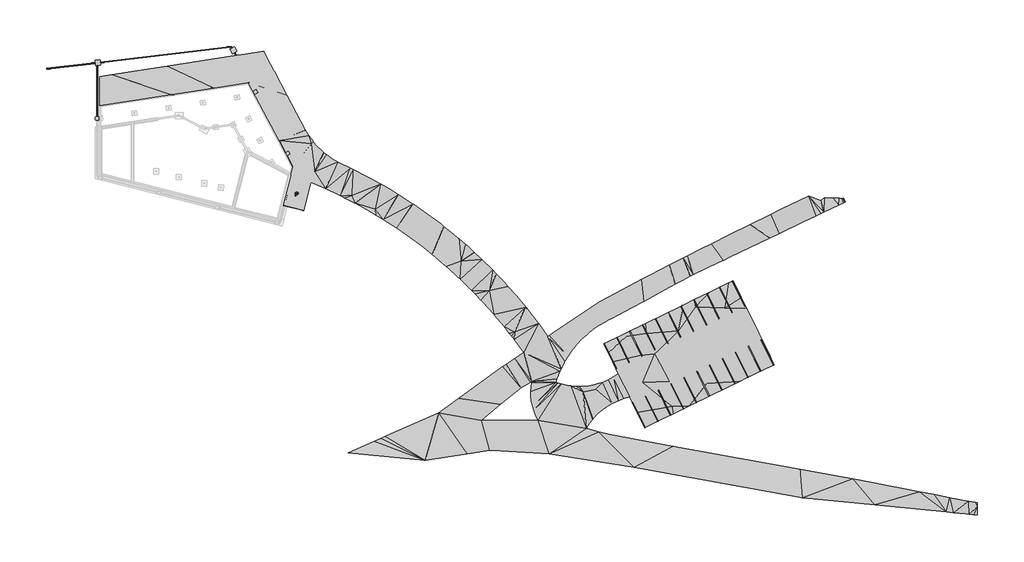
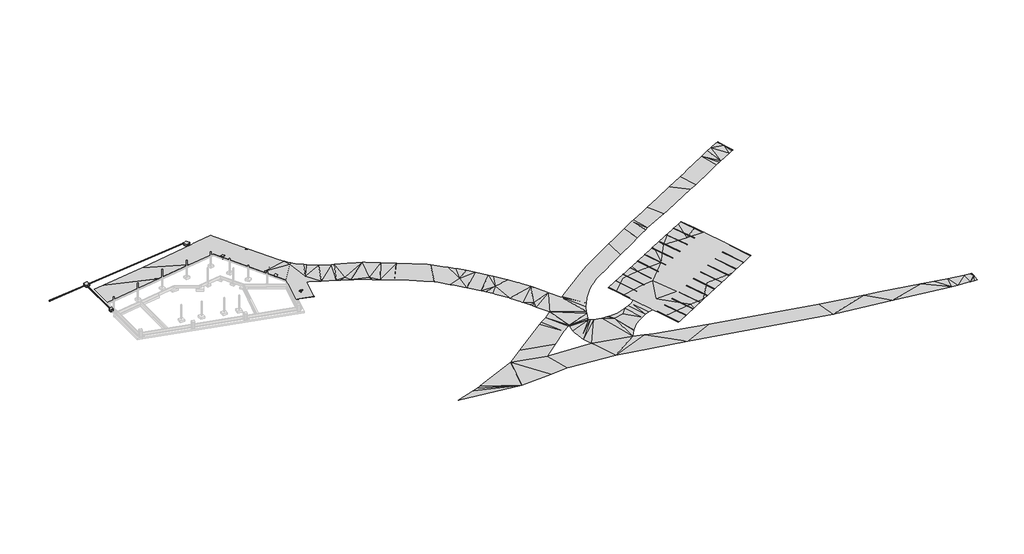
# One storey, part 2 of 2: 24 proxies, 6 pipe segments, 5 valves, 2 duct fittings.
"""IFC4 building model written with IfcOpenShell, lengths in millimetres."""

from ifc_helpers import new_model, si_unit, point, frame, frame_2d, origin, place, context, project, spatial, circle_curve, trimmed, segment, composite_curve, outline, extrude, triangles, transform, mapped, element, save
from components import parking_4ee11a6e, place_de_parking_2b7ae786, place_de_parking_cf846cf7, coude_45_coude_45_5ee33517, coude_45_coude_45_9e966648, regard_ep_600x600_5cba4647, regard_ep_900x900_4cb097e6

model = new_model("IFC4")

# Units and contexts
model_context = context("Model", 3, world=origin())
ifc_project = project(units=[si_unit("LENGTHUNIT", "METRE", prefix="MILLI")], contexts=[model_context])

# Site, building, storey
site = spatial("IfcSite", under=ifc_project)
building = spatial("IfcBuilding", under=site)
storey = spatial("IfcBuildingStorey", under=building, Name="-1 Soubassement", Elevation=869500.0)

# Proxies
placement = place(None, origin())
element("IfcBuildingElementProxy", 1, Name="Building Element Proxy", at=placement, inside=storey, context=model_context, shape_type="Tessellation", body=[
    triangles([(151670.4817383, -50631.3699829, 865261.7900391), (148473.0024902, -50048.2241821, 865284.6351562), (139487.3835205, -48409.4451416, 865346.5476563), (117659.7298096, -44428.5625488, 865835.8201172), (106768.1248535, -42442.172168, 866270.6214844), (104990.0938477, -41969.8661133, 866343.1007813), (102774.4616455, -41381.3206421, 866460.675), (103348.9940186, -40496.3979126, 866484.9339844), (103890.9981445, -39811.4304199, 866499.8912109), (103936.4744385, -39753.9595093, 866502.1236328), (103990.5734619, -39685.5915894, 866504.8025391), (104003.6796387, -39669.0205078, 866506.0675781), (104087.6373047, -39581.2119141, 866512.5416016), (104192.3006836, -39471.7395264, 866521.2480469), (104732.8072266, -38906.4228699, 866568.6498047), (105529.9771729, -38215.2743591, 866624.3859375), (106388.2317627, -37601.6187927, 866671.4900391), (107300.0644775, -37070.8256104, 866709.515625), (107846.0311523, -36818.04104, 866725.8123047), (108257.4944092, -36627.5363892, 866738.9835938), (109252.1406738, -36275.6276367, 866759.8939453), (110275.3247314, -36018.1782349, 866770.9072266), (111141.0486328, -37793.1884949, 866578.9933594), (111537.6476807, -38606.3295593, 866489.9941406), (112148.8382813, -39859.4507446, 866302.3962891), (112833.2337158, -41262.6720703, 866092.3253906), (113419.3839844, -40976.7871948, 866118.8912109), (115849.886792, -39791.3479248, 866229.2472656), (117691.6720459, -38893.051593, 866316.9070313), (120477.1857422, -37534.4670776, 866489.9941406), (124281.5023682, -35678.978009, 866718.8173828), (129109.5239502, -33324.1938354, 866989.9822266), (130426.6249512, -32681.8004883, 867058.6664062), (131126.7496582, -32340.3259827, 867097.1384766), (133607.0819824, -31130.5881958, 867233.390625), (134979.9470215, -30460.9941833, 867307.6558594), (134798.7394775, -30089.4610474, 867356.3226562), (134289.8961182, -29046.180542, 867489.9703125), (132407.4435791, -25186.5742676, 867972.9919922), (132342.0987305, -25052.5987244, 867990.0328125), (132321.0674561, -25009.480426, 867995.390625), (130271.2948975, -20806.8136963, 868490.0208984), (129362.5689697, -18943.6483521, 868672.5585938), (127966.0123535, -16080.2905701, 868864.1003906), (127153.0759277, -16476.7838104, 868820.49375), (123875.00625, -18075.6071503, 868687.3669922), (121329.7290527, -19317.0232361, 868637.6583984), (119358.9935303, -20278.2134033, 868550.8916016), (119214.7790771, -20348.5509705, 868545.6826172), (119026.0929199, -20440.5802368, 868534.2228516), (113037.3514893, -23361.4833435, 868206.5777344), (109830.049585, -24925.792511, 868070.4), (109282.3899902, -25192.9017883, 868047.0339844), (105819.2897461, -26881.9661316, 867909.665625), (106593.5866699, -28469.5087646, 867708.5988281), (107323.0026123, -29965.0198059, 867489.9703125), (108328.5784424, -32026.7707031, 867248.4966797), (108248.629834, -32079.6628235, 867244.9248047), (107473.5794678, -32592.3664124, 867195.5138672), (106571.113623, -33078.6669617, 867151.6095703), (105628.5292969, -33481.7214294, 867118.7929688), (104653.4725342, -33798.2532715, 867097.2128906), (104416.659082, -33852.1337036, 867094.8316406), (103653.8684326, -34025.6905518, 867092.896875), (102701.3591309, -34153.6525085, 867101.4544922), (102637.8467285, -34162.1868713, 867101.23125), (101712.9636475, -34202.3193054, 867108.6726563), (101613.6673828, -34206.6283447, 867111.946875), (101183.1169189, -34186.4598083, 867130.1783203), (100589.6368652, -34158.6591797, 867132.2619141), (100141.4223633, -34096.8722534, 867140.0009766), (99574.0895508, -34018.6677246, 867164.4832031), (98575.2854004, -33787.7887939, 867214.7126953), (97957.7975098, -33584.9825684, 867250.4314453), (97601.3169434, -33467.9013428, 867270.7464844), (97604.9260254, -33457.4391907, 867271.6394531), (97783.5755859, -32938.7592224, 867305.4234375), (98006.6317383, -32291.1289856, 867403.2779297), (98281.7312256, -31644.3684631, 867501.28125), (98493.7927002, -31145.808197, 867544.7390625), (99060.3627686, -30037.6293274, 867637.7566406), (99138.3021973, -29908.520929, 867648.1746094), (99703.5607178, -28972.0873901, 867751.0148438), (100420.1681396, -27954.4704346, 867861.3708984), (100598.7618896, -27735.4256653, 867884.8113281), (101206.6503662, -26989.8316406, 867965.9970703), (102059.0820557, -26082.9544373, 868063.3306641), (102973.2495117, -25238.3432007, 868152.553125), (103275.6217529, -24996.1184509, 868177.6306641), (103944.6134766, -24460.1860474, 868228.9019531), (104968.3556396, -23752.3455322, 868294.0886719), (106039.3879395, -23118.3353943, 868349.7503906), (106784.198291, -22745.5744263, 868380.4089844), (107152.3897705, -22561.3019531, 868396.63125), (110566.2837158, -20719.0678894, 868563.5419922), (112648.872876, -19595.2388123, 868664.8939453), (116375.3523926, -17584.3231842, 868892.2289062), (118068.8211182, -16670.4812897, 869006.1568359), (119406.8510742, -15948.4404785, 869062.9347656), (120666.4951172, -15268.6970856, 869126.1123047), (121174.9291992, -14994.3335999, 869139.0603516), (125627.5039307, -12864.8612549, 869221.1390625), (126253.6331543, -12565.4132538, 869237.7333984), (127392.0194824, -12020.9697418, 869315.4960938), (134269.4229492, -8731.8082993, 869768.9009766), (135863.9674805, -7969.2071732, 869797.7736328), (139928.3240479, -6025.4072159, 870158.75625), (142165.964209, -4955.2411423, 870328.9412109), (142951.4232422, -4579.589653, 870439.4460938), (143517.3142822, -4308.9500679, 870415.3359375), (146054.005957, -3095.7610382, 870574.3587891), (146849.7248291, -2715.2002556, 870626.0021484), (147093.1890381, -2598.7652115, 870624.5882812), (147147.8275635, -2572.6310509, 870641.4058594), (146307.1998047, -639.8505518, 870840.984375), (145702.0553467, 751.5002775, 870997.0306641), (145602.7404785, 703.6779785, 870997.5515625), (145149.5309326, 485.4546344, 870967.9347656), (143703.0703857, -211.0258365, 870876.7775391), (142523.7005127, -778.8990412, 870926.5605469), (140888.6654297, -1566.1780941, 870695.728125), (136243.0792236, -3803.0562378, 870340.6986328), (135693.6243896, -4067.6249725, 870291.6597656), (134420.1300293, -4699.710228, 870175.6482422), (130922.5574707, -6435.6926376, 870105.8478516), (127260.6693604, -8253.229953, 869854.9236328), (124264.2290039, -9740.4781265, 869642.5458984), (122638.5886963, -10547.3468994, 869595.7394531), (120099.4692627, -11807.6095093, 869543.7240234), (119570.3945801, -12070.2132477, 869519.9115234), (119449.0066406, -12133.7651825, 869514.0328125), (117047.1346436, -13391.2977264, 869416.6992188), (113976.1779053, -14999.136795, 869216.3021484), (112267.0915283, -15893.9531067, 869115.3222656), (111324.358374, -16387.5322815, 869071.2691406), (105218.4706055, -19584.3534302, 868784.6261719), (104231.5541016, -20244.9107849, 868721.0021484), (102689.4714844, -21277.0547607, 868626.7939453), (97216.5311279, -24940.1823303, 868258.4443359), (96461.9911377, -25445.2096436, 868208.8845703), (96241.3255371, -25592.9052795, 868201.9640625), (94639.7674805, -23382.7192566, 868490.0208984), (94505.0873291, -23196.8585083, 868522.9119141), (92790.1594482, -20989.9908875, 868919.5388672), (92689.4586182, -20860.3987976, 868943.3513672), (92480.5039307, -20609.3652832, 868990.0089844), (92416.4706299, -20532.4281189, 869000.6501953), (90796.4764893, -18586.1597076, 869270.1035156), (89397.9479004, -17016.2055359, 869489.9970703), (88828.2710449, -16376.6992218, 869565.2296875), (87423.7056152, -14902.6484985, 869740.6236328), (86787.0561035, -14234.5032349, 869806.7777344), (84911.8961426, -12394.3306732, 869989.9851563), (84675.1291992, -12161.9843903, 870028.2339844), (83647.3500732, -11218.9373016, 870184.2058594), (82494.871582, -10161.4751038, 870247.5322266), (82171.9238525, -9884.5234039, 870263.53125), (81030.7935059, -8905.9034866, 870343.6751953), (80248.738916, -8235.2264008, 870427.6886719), (78407.3629395, -6760.3501465, 870616.1794922), (77939.2519775, -6385.4073349, 870604.2732422), (75569.0152588, -4614.0988838, 870537.4494141), (73147.4421387, -2927.9919182, 870462.9609375), (73140.6937134, -2923.2954025, 870463.0353516), (70657.0220581, -1314.8996819, 870496.0007813), (69545.634082, -646.9956825, 870505.0792969), (68120.8001221, 209.2779599, 870507.3861328), (67605.3664673, 495.9520678, 870505.7490234), (65534.8742432, 1647.5218208, 870388.6957031), (65076.4650146, 1882.7045586, 870361.7578125), (62902.1558716, 2998.2132133, 870218.8083984), (62357.3891235, 3254.9969582, 870181.9734375), (60225.6169189, 4259.8321358, 870159.7236328), (59260.1223633, 4849.138607, 870155.3332031), (58344.2387329, 5512.9204742, 870155.7052734), (58311.5942139, 5540.7670303, 870155.8541016), (57866.8260132, 5920.1793365, 870180.4851563), (57483.6866089, 6247.0233398, 870146.9988281), (56683.8563599, 7046.8541702, 870079.1332031), (56097.8502686, 7733.7947983, 870030.9873047), (55949.7523315, 7907.4057129, 870026.0759766), (55285.9695923, 8823.2939941, 870009.7792969), (54696.661377, 9788.7862244, 870001.59375), (51542.7283081, 15720.4764862, 869989.9851563), (49338.4954102, 19866.0315857, 869989.6130859), (49239.8967773, 20051.469104, 869989.6130859), (49186.2209839, 20152.4210815, 869989.9851563), (48213.1361938, 21982.5279785, 869989.9851563), (47726.5193848, 22897.7186279, 869989.9851563), (47539.5121948, 23249.4320435, 869989.9851563), (44397.1365601, 22765.0848633, 869989.9851563), (43714.1828979, 22659.8191956, 869989.9851563), (43515.576416, 22629.2071106, 869989.9851563), (43344.7542847, 22602.8761597, 869989.5386719), (43199.6654663, 22580.5124084, 869989.5386719), (43020.2531616, 22552.8606079, 869989.5386719), (31015.7300903, 20702.5549438, 869876.2804688), (21580.0130127, 19248.1879028, 869984.4041016), (19451.6626923, 18920.1369965, 869984.4041016), (19451.6626923, 13942.3478119, 869969.9677734), (31717.0896057, 15831.1569397, 869969.2980469), (31719.09646, 15831.4662231, 869969.3724609), (39033.0965332, 16957.7823578, 869969.9677734), (44960.4649658, 17870.5650146, 869969.9677734), (44961.7718628, 17868.0895844, 869969.8189453), (50216.8231934, 7911.0549088, 869969.8933594), (50217.260376, 7910.2189133, 869969.8933594), (52568.591272, 3455.0254463, 869969.8189453), (52570.3120972, 3451.7640175, 869969.9677734), (52291.2268066, 2351.8703979, 869969.9677734), (52236.4766602, 2136.0956326, 869969.9677734), (52193.1397705, 1965.3165218, 869969.9677734), (52122.2045654, 1685.757423, 869969.9677734), (50900.1117187, -3130.5871101, 869969.9677734), (50894.1260376, -3154.1647408, 869979.5671875), (54419.5062012, -4048.6929886, 869980.7578125), (54426.2313721, -4022.1992569, 869969.9677734), (54450.3089722, -3927.2977821, 869969.9677734), (55647.2684692, 789.9722025, 869969.9677734), (56000.1911133, 637.6702343, 869969.9677734), (58202.1543823, -312.5762695, 869976.8138672), (60718.7403076, -1499.945945, 869984.7017578), (61416.8883911, -1858.3636024, 869986.9341797), (63194.2078125, -2770.8087799, 870050.5582031), (63214.4530884, -2782.0717552, 870051.3023438), (65625.7989258, -4123.7427681, 870046.9119141), (66733.3499268, -4789.4367279, 870047.9537109), (68010.7835815, -5557.2346298, 869990.4316406), (68021.3875854, -5564.1028152, 869989.9851563), (70346.4968262, -7069.6812653, 870067.3013672), (72630.3248657, -8659.3900452, 870137.6226563), (74859.7143677, -10324.5837524, 870200.5025391), (76452.6171387, -11599.5268616, 870241.1326172), (77032.1724609, -12063.3985474, 870181.8246094), (78818.5099365, -13593.9260559, 869989.9851563), (79145.2713867, -13873.8903625, 869957.4662109), (80707.1760498, -15305.426239, 869794.2761719), (81196.6345459, -15754.0325775, 869748.6603516), (83183.9830078, -17701.7241577, 869553.3978516), (83794.7457275, -18341.7176514, 869489.9970703), (84783.866748, -19378.1869446, 869348.1638672), (85105.0843506, -19714.7850037, 869299.6458984), (86957.7991699, -21790.9629272, 869003.9988281), (87040.7057373, -21890.370813, 868990.0089844), (87054.5095459, -21906.9256165, 868987.4789062), (88740.0438721, -23927.9371399, 868673.0050781), (89667.466333, -25118.7528259, 868490.0208984), (90015.0823242, -25565.1, 868383.9808594), (90449.8278809, -26123.3147644, 868301.7533203), (92085.2443359, -28374.6424622, 867969.8666016), (90564.1278809, -29392.7500854, 867811.8855469), (89089.6411377, -30379.6456604, 867784.7244141), (88706.4552246, -30636.1183777, 867769.3207031), (88511.9740723, -30776.6144531, 867760.4654297), (81003.6509766, -36200.6694214, 867676.5263672), (77526.3888062, -38712.6626038, 867640.5099609), (69329.5588989, -42362.977002, 867714.9984375), (68377.286792, -42787.0580933, 867729.8068359), (67666.5627319, -43103.5643555, 867753.7681641), (66519.8931885, -43614.2122559, 867853.1109375), (62062.5885132, -45599.1980713, 868490.690625), (75252.7973511, -46900.4395752, 868036.0207031), (82401.5563477, -45749.8214355, 867419.2769531), (86230.5412354, -45133.5381226, 867198.9369141), (86830.5418213, -45133.5381226, 867174.3058594), (96521.4107666, -45714.2654663, 866835.6474609), (111029.6693848, -48022.3478394, 866475.8554688), (139856.8121338, -53300.1745239, 865831.7273438), (152200.0494141, -54491.4273926, 865446.5601563), (164452.1759766, -55700.1210571, 865066.9740234), (165705.3273926, -55823.7460693, 865062.4347656), (167814.1475098, -56031.7845337, 865054.0259766), (168430.7796387, -56092.6180298, 865053.9515625), (169171.4414062, -56165.6879883, 865059.6814453), (169821.0017578, -56229.7677979, 865079.1035156), (169821.0017578, -55819.7556152, 865120.4033203), (169821.0017578, -54787.2279419, 865232.0244141), (169821.0017578, -54678.2578491, 865262.8318359), (169821.0017578, -54247.7259888, 865347.2917969), (169779.553125, -54152.4201782, 865357.1144531), (169536.3121582, -54105.1253906, 865314.4751953), (169462.1027344, -54090.6937134, 865289.7697266), (168255.7577637, -53856.1405884, 865256.0601563), (165082.1096191, -53239.0712769, 865191.9152344), (162369.679834, -52711.6755615, 865187.8224609), (159815.8078125, -52215.1151733, 865199.9519531), (91611.5151123, -34427.0614014, 867376.3400391), (93219.7518311, -33486.2606873, 867378.5724609), (93488.4331055, -33329.0842346, 867387.2044922), (93445.2357422, -33616.0411377, 867360.2666016), (93359.1665771, -34187.7434509, 867323.0595703), (93307.2534668, -35054.5254272, 867263.5283203), (93333.1216553, -35922.4747742, 867200.7972656), (93436.5479004, -36784.6268005, 867135.3128906), (93616.7136475, -37634.0656494, 867067.6705078), (93785.0847656, -38181.0671448, 867021.9802734), (93872.1678223, -38463.9754578, 866998.6142578), (94200.8640381, -39267.6915161, 866928.9626953), (94600.1605957, -40038.7746826, 866858.7158203), (84814.5067383, -40038.7746826, 867253.4824219), (88126.5371338, -37304.3136841, 867311.7486328), (87064.0345459, -21884.206073, 868990.0089844), (90550.5752197, -24870.6051819, 868490.0208984), (102279.4220947, -35147.0058289, 866989.9822266), (104481.3062988, -34690.8546021, 866989.9822266), (109709.9824951, -25611.7901733, 867990.0328125), (112079.5494873, -28871.4214417, 867489.9703125), (112487.0967041, -33525.5675903, 866989.9822266), (113220.9309814, -25141.179364, 867990.0328125), (114518.535498, -28609.8583374, 867489.9703125), (117054.1946777, -33291.9376648, 866989.9822266), (117526.3426025, -37643.3046204, 866489.9941406), (118598.15625, -24716.051825, 867990.0328125), (119353.3008545, -20793.1610413, 868490.0208984), (121530.2377441, -20540.9066711, 868490.0208984), (123457.8410156, -33676.8676575, 866989.9822266), (125262.5029541, -29486.7676025, 867489.9703125), (126532.5277588, -20732.6740356, 868490.0208984), (126823.9053223, -25148.0347595, 867990.0328125), (86214.3561768, -17769.3270081, 869489.9970703), (92408.1455566, -20626.3968018, 868990.0089844), (119890.523877, -29048.31297, 867489.9703125), (130678.0700684, -29222.4581543, 867489.9703125), (132277.59104, -25053.7149353, 867990.0328125), (55738.5791748, 7459.4446838, 869989.9851563), (52570.9678711, 3454.338279, 869969.9677734), (44963.0182983, 17870.9580139, 869969.9677734), (56335.6218018, 2598.7954422, 869969.9677734), (56097.5526123, 940.6799366, 869969.9677734), (31716.2268677, 15836.7670624, 869969.9677734), (66679.455542, -3816.5539604, 869989.9851563), (81400.3523437, -12718.8050537, 869989.9851563), (62665.1424316, -1464.7973637, 869989.9851563), (50218.4975098, 7910.506105, 869969.9677734)], [[260, 261, 262], [258, 259, 262], [262, 259, 260], [256, 262, 263], [258, 262, 257], [256, 300, 255], [256, 257, 262], [255, 300, 301], [300, 256, 263], [263, 264, 300], [299, 300, 265], [254, 287, 253], [252, 253, 287], [254, 255, 301], [244, 245, 302], [245, 246, 302], [321, 302, 246], [148, 243, 302], [244, 302, 243], [287, 254, 301], [300, 264, 265], [235, 236, 332], [332, 238, 153], [236, 237, 332], [332, 237, 238], [160, 232, 233], [158, 234, 332], [332, 234, 235], [155, 156, 332], [233, 234, 159], [332, 156, 157], [153, 238, 239], [240, 241, 320], [242, 243, 320], [150, 320, 149], [242, 320, 241], [320, 152, 239], [154, 155, 332], [153, 154, 332], [153, 239, 152], [320, 151, 152], [320, 150, 151], [148, 320, 243], [320, 239, 240], [292, 75, 291], [75, 294, 295], [293, 294, 75], [293, 75, 292], [251, 287, 288], [75, 290, 291], [75, 289, 290], [251, 288, 289], [295, 296, 74], [297, 298, 73], [73, 299, 72], [7, 299, 266], [299, 73, 298], [73, 74, 296], [77, 289, 76], [77, 78, 289], [79, 289, 78], [295, 74, 75], [289, 75, 76], [297, 73, 296], [266, 299, 265], [289, 79, 250], [247, 248, 303], [251, 289, 250], [303, 249, 142], [248, 249, 303], [148, 149, 320], [303, 321, 246], [148, 321, 147], [302, 321, 148], [146, 147, 321], [321, 303, 144], [250, 142, 249], [247, 303, 246], [83, 140, 141], [81, 82, 141], [80, 81, 141], [142, 250, 141], [139, 140, 83], [321, 145, 146], [144, 145, 321], [144, 303, 143], [143, 303, 142], [83, 141, 82], [141, 250, 80], [79, 80, 250], [251, 252, 287], [213, 214, 218], [212, 213, 219], [215, 216, 214], [334, 207, 208], [200, 201, 198], [184, 206, 183], [334, 183, 206], [207, 334, 206], [205, 206, 184], [217, 218, 214], [217, 214, 216], [219, 211, 212], [213, 218, 219], [211, 219, 210], [209, 210, 328], [208, 209, 326], [183, 334, 182], [328, 326, 209], [208, 325, 334], [326, 325, 208], [325, 182, 334], [219, 328, 210], [199, 200, 198], [330, 202, 203], [330, 198, 201], [198, 330, 197], [202, 330, 201], [197, 330, 203], [197, 203, 196], [204, 195, 196], [195, 204, 194], [194, 204, 193], [203, 204, 196], [204, 205, 327], [327, 185, 186], [327, 205, 184], [204, 327, 191], [184, 185, 327], [187, 327, 186], [191, 189, 190], [191, 192, 204], [188, 189, 191], [188, 191, 327], [187, 188, 327], [204, 192, 193], [226, 331, 225], [331, 226, 227], [331, 228, 165], [227, 228, 331], [165, 228, 229], [222, 223, 333], [333, 224, 225], [224, 333, 223], [168, 333, 225], [171, 222, 333], [168, 225, 331], [163, 230, 231], [160, 233, 159], [159, 234, 158], [332, 157, 158], [232, 160, 161], [164, 165, 229], [230, 163, 164], [232, 162, 231], [162, 163, 231], [232, 161, 162], [164, 229, 230], [165, 166, 331], [329, 328, 219], [329, 220, 221], [177, 328, 176], [221, 328, 329], [173, 328, 221], [328, 177, 178], [328, 325, 326], [325, 181, 182], [181, 325, 180], [179, 180, 325], [179, 325, 328], [328, 178, 179], [219, 220, 329], [333, 170, 171], [168, 169, 333], [333, 169, 170], [171, 172, 222], [175, 176, 328], [174, 175, 328], [172, 173, 221], [222, 172, 221], [174, 328, 173], [331, 167, 168], [331, 166, 167], [7, 8, 304], [9, 10, 304], [266, 6, 7], [8, 9, 304], [11, 12, 304], [14, 15, 304], [13, 14, 304], [12, 13, 304], [10, 11, 304], [5, 267, 4], [24, 25, 28], [5, 6, 267], [17, 18, 305], [19, 20, 60], [18, 19, 61], [24, 312, 23], [16, 17, 305], [266, 267, 6], [15, 16, 304], [68, 69, 304], [67, 304, 66], [304, 67, 68], [66, 304, 65], [69, 70, 304], [7, 71, 72], [64, 65, 304], [304, 70, 71], [304, 305, 64], [71, 7, 304], [63, 305, 62], [305, 63, 64], [61, 305, 18], [305, 61, 62], [58, 21, 22], [304, 16, 305], [61, 19, 60], [21, 58, 59], [58, 22, 57], [20, 59, 60], [307, 56, 57], [22, 308, 57], [20, 21, 59], [23, 308, 22], [7, 72, 299], [268, 269, 2], [284, 270, 271], [270, 286, 269], [283, 284, 271], [2, 269, 1], [1, 269, 286], [286, 270, 285], [270, 284, 285], [271, 272, 283], [268, 2, 3], [273, 274, 277], [276, 277, 274], [275, 276, 274], [273, 277, 283], [283, 277, 282], [281, 282, 278], [281, 279, 280], [279, 281, 278], [277, 278, 282], [273, 283, 272], [28, 25, 27], [28, 29, 312], [312, 24, 28], [310, 308, 311], [311, 308, 312], [311, 316, 322], [30, 312, 29], [316, 311, 30], [30, 311, 312], [23, 312, 308], [307, 57, 308], [27, 25, 26], [316, 31, 32], [31, 316, 30], [316, 32, 317], [323, 32, 33], [32, 323, 317], [323, 33, 34], [323, 34, 35], [322, 317, 319], [35, 36, 37], [323, 35, 38], [38, 35, 37], [316, 317, 322], [4, 268, 3], [319, 317, 323], [268, 4, 267], [322, 310, 311], [85, 139, 84], [87, 139, 86], [86, 139, 85], [87, 88, 138], [90, 91, 138], [89, 90, 138], [88, 89, 138], [87, 138, 139], [53, 55, 306], [309, 306, 307], [306, 55, 56], [307, 308, 310], [53, 306, 52], [310, 309, 307], [92, 93, 137], [51, 309, 313], [309, 51, 52], [313, 309, 310], [51, 313, 50], [52, 306, 309], [322, 313, 310], [53, 54, 55], [306, 56, 307], [91, 92, 137], [138, 91, 137], [136, 94, 95], [136, 137, 93], [94, 136, 93], [135, 95, 96], [136, 95, 135], [134, 97, 133], [134, 135, 96], [133, 97, 132], [97, 134, 96], [98, 132, 97], [49, 314, 48], [314, 49, 50], [132, 99, 131], [99, 132, 98], [131, 99, 100], [129, 130, 101], [131, 101, 130], [100, 101, 131], [315, 48, 314], [50, 313, 314], [314, 313, 315], [84, 139, 83], [47, 315, 46], [315, 47, 48], [315, 318, 46], [318, 315, 319], [45, 46, 318], [315, 313, 319], [101, 128, 129], [128, 101, 102], [127, 102, 103], [102, 127, 128], [127, 103, 104], [318, 319, 42], [324, 41, 42], [41, 324, 40], [324, 39, 40], [319, 323, 324], [319, 324, 42], [44, 45, 43], [43, 45, 318], [42, 43, 318], [127, 104, 126], [39, 324, 323], [322, 319, 313], [125, 104, 105], [126, 104, 125], [122, 106, 107], [124, 125, 105], [106, 124, 105], [121, 107, 108], [124, 106, 123], [123, 106, 122], [122, 107, 121], [121, 110, 120], [121, 108, 109], [120, 110, 119], [115, 111, 112], [110, 111, 119], [115, 112, 113], [118, 119, 115], [117, 118, 115], [115, 116, 117], [115, 119, 111], [113, 114, 115], [110, 121, 109], [323, 38, 39]], closed=False),
])
parking_shape = parking_4ee11a6e(model_context)
element("IfcBuildingElementProxy", 2, Name="Place de parking - Handicapé : 4.8m x 2.4m - 90°", ObjectType="Place de parking - Handicapé : 4.8m x 2.4m - 90°", at=placement, inside=storey, context=model_context, shape_type="MappedRepresentation", body=[
    mapped(parking_shape, transform((51333.9022442, -3230.5804142, 869980.7803686), x_axis=(0.9686122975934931, -0.2485763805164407, 0.0), y_axis=(0.2485763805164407, 0.9686122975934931, 0.0), z_axis=(0.0, 0.0, 1.0))),
])
place_de_parking_shape = place_de_parking_2b7ae786(model_context)
element("IfcBuildingElementProxy", 3, Name="Place de parking : 4,8m x 2,4m - 90°", ObjectType="Place de parking : 4,8m x 2,4m - 90°", at=placement, inside=storey, context=model_context, shape_type="MappedRepresentation", body=[
    mapped(place_de_parking_shape, transform((105864.8635385, -26859.7434036, 867914.3124099), x_axis=(0.8979356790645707, 0.4379535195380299, 0.043683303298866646), y_axis=(-0.4400084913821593, 0.8909618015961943, 0.11215879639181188), z_axis=(0.010200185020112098, -0.11993240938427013, 0.9927296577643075))),
])
element("IfcBuildingElementProxy", 4, Name="Place de parking : 4,8m x 2,4m - 90°", ObjectType="Place de parking : 4,8m x 2,4m - 90°", at=placement, inside=storey, context=model_context, shape_type="MappedRepresentation", body=[
    mapped(place_de_parking_shape, transform((108065.6507528, -25786.3477587, 868025.731615), x_axis=(0.8982570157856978, 0.43811024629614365, 0.03455062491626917), y_axis=(-0.4389114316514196, 0.8903730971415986, 0.12079943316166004), z_axis=(0.022160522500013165, -0.12367360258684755, 0.9920754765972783))),
])
element("IfcBuildingElementProxy", 5, Name="Place de parking : 4,8m x 2,4m - 90°", ObjectType="Place de parking : 4,8m x 2,4m - 90°", at=placement, inside=storey, context=model_context, shape_type="MappedRepresentation", body=[
    mapped(place_de_parking_shape, transform((110267.1993715, -24712.5807521, 868118.77136), x_axis=(0.8980833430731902, 0.43802554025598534, 0.039748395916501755), y_axis=(-0.4393820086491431, 0.8894503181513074, 0.1257838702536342), z_axis=(0.01974232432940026, -0.1304291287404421, 0.9912610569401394))),
])
element("IfcBuildingElementProxy", 6, Name="Place de parking : 4,8m x 2,4m - 90°", ObjectType="Place de parking : 4,8m x 2,4m - 90°", at=placement, inside=storey, context=model_context, shape_type="MappedRepresentation", body=[
    mapped(place_de_parking_shape, transform((112468.3373686, -23639.0140189, 868219.5959315), x_axis=(0.8978252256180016, 0.43789964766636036, 0.04640865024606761), y_axis=(-0.4401343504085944, 0.8890710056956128, 0.1258352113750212), z_axis=(0.013842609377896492, -0.13340406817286, 0.9909650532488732))),
])
element("IfcBuildingElementProxy", 7, Name="Place de parking : 4,8m x 2,4m - 90°", ObjectType="Place de parking : 4,8m x 2,4m - 90°", at=placement, inside=storey, context=model_context, shape_type="MappedRepresentation", body=[
    mapped(place_de_parking_shape, transform((114668.8561905, -22565.7492778, 868319.6151474), x_axis=(0.8974705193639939, 0.4377266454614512, 0.05424067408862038), y_axis=(-0.44106679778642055, 0.8899189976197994, 0.11620782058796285), z_axis=(0.0025974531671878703, -0.12821685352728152, 0.9917427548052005))),
])
element("IfcBuildingElementProxy", 8, Name="Place de parking : 4,8m x 2,4m - 90°", ObjectType="Place de parking : 4,8m x 2,4m - 90°", at=placement, inside=storey, context=model_context, shape_type="MappedRepresentation", body=[
    mapped(place_de_parking_shape, transform((116868.523884, -21492.8996596, 868408.309291), x_axis=(0.8971301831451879, 0.4375606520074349, 0.060812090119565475), y_axis=(-0.44170230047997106, 0.890803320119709, 0.1066232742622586), z_axis=(-0.007517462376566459, -0.12251579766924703, 0.992438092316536))),
])
element("IfcBuildingElementProxy", 9, Name="Place de parking : 4,8m x 2,4m - 90°", ObjectType="Place de parking : 4,8m x 2,4m - 90°", at=placement, inside=storey, context=model_context, shape_type="MappedRepresentation", body=[
    mapped(place_de_parking_shape, transform((119067.3748344, -20420.4483937, 868541.6188143), x_axis=(0.8973674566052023, 0.43767637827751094, 0.056311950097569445), y_axis=(-0.44124099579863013, 0.8917274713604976, 0.1006404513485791), z_axis=(-0.006166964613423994, -0.11515860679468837, 0.9933279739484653))),
])
element("IfcBuildingElementProxy", 10, Name="Place de parking : 4,8m x 2,4m - 90°", ObjectType="Place de parking : 4,8m x 2,4m - 90°", at=placement, inside=storey, context=model_context, shape_type="MappedRepresentation", body=[
    mapped(place_de_parking_shape, transform((121266.7949423, -19347.7195312, 868629.6827674), x_axis=(0.8977207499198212, 0.4378486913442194, 0.04884648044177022), y_axis=(-0.44055787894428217, 0.8927988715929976, 0.09390915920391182), z_axis=(-0.002492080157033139, -0.10582390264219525, 0.9943817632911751))),
])
element("IfcBuildingElementProxy", 11, Name="Place de parking : 4,8m x 2,4m - 90°", ObjectType="Place de parking : 4,8m x 2,4m - 90°", at=placement, inside=storey, context=model_context, shape_type="MappedRepresentation", body=[
    mapped(place_de_parking_shape, transform((123466.9806688, -18274.6253743, 868745.7959577), x_axis=(0.8979973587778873, 0.4379836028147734, 0.04208452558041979), y_axis=(-0.4399995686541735, 0.8936473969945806, 0.08828765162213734), z_axis=(0.0010598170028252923, -0.09779925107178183, 0.9952055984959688))),
])
element("IfcBuildingElementProxy", 12, Name="Place de parking : 4,8m x 2,4m - 90°", ObjectType="Place de parking : 4,8m x 2,4m - 90°", at=placement, inside=storey, context=model_context, shape_type="MappedRepresentation", body=[
    mapped(place_de_parking_shape, transform((125668.1269453, -17201.0464802, 868819.1943947), x_axis=(0.898056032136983, 0.43801221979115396, 0.04050504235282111), y_axis=(-0.4398806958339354, 0.8943612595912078, 0.08138126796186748), z_axis=(-0.0005801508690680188, -0.09090232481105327, 0.9958596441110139))),
])
element("IfcBuildingElementProxy", 13, Name="Place de parking : 4,8m x 2,4m - 90°", ObjectType="Place de parking : 4,8m x 2,4m - 90°", at=placement, inside=storey, context=model_context, shape_type="MappedRepresentation", body=[
    mapped(place_de_parking_shape, transform((127869.2303561, -16127.4966159, 868941.2553647), x_axis=(0.8979645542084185, 0.4379676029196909, 0.04294226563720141), y_axis=(-0.44006289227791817, 0.8941295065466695, 0.08292813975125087), z_axis=(-0.0020761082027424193, -0.09336382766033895, 0.9956298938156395))),
])
place_de_parking_2_shape = place_de_parking_cf846cf7(model_context)
element("IfcBuildingElementProxy", 14, Name="Place de parking : 4,8m x 2,4m - 90°", ObjectType="Place de parking : 4,8m x 2,4m - 90°", at=placement, inside=storey, context=model_context, shape_type="MappedRepresentation", body=[
    mapped(place_de_parking_2_shape, transform((112878.6413059, -41240.1228986, 866224.4940032), x_axis=(0.8979956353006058, 0.43798070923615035, 0.04215136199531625), y_axis=(-0.4398336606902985, 0.8908506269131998, 0.11371680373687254), z_axis=(0.012255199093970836, -0.12065678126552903, 0.992618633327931))),
])
element("IfcBuildingElementProxy", 15, Name="Place de parking : 4,8m x 2,4m - 90°", ObjectType="Place de parking : 4,8m x 2,4m - 90°", at=placement, inside=storey, context=model_context, shape_type="MappedRepresentation", body=[
    mapped(place_de_parking_2_shape, transform((115079.4285202, -40166.7272537, 866320.8834117), x_axis=(0.8977101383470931, 0.4378414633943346, 0.04910560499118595), y_axis=(-0.44058064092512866, 0.8915277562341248, 0.10519961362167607), z_axis=(0.0022817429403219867, -0.11607373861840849, 0.993237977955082))),
])
element("IfcBuildingElementProxy", 16, Name="Place de parking : 4,8m x 2,4m - 90°", ObjectType="Place de parking : 4,8m x 2,4m - 90°", at=placement, inside=storey, context=model_context, shape_type="MappedRepresentation", body=[
    mapped(place_de_parking_2_shape, transform((117280.9771389, -39092.960247, 866402.201682), x_axis=(0.8973436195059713, 0.43766270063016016, 0.056796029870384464), y_axis=(-0.44130650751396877, 0.8912276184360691, 0.10469908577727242), z_axis=(-0.004795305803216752, -0.11901551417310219, 0.9928808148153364))),
])
element("IfcBuildingElementProxy", 17, Name="Place de parking : 4,8m x 2,4m - 90°", ObjectType="Place de parking : 4,8m x 2,4m - 90°", at=placement, inside=storey, context=model_context, shape_type="MappedRepresentation", body=[
    mapped(place_de_parking_2_shape, transform((119482.1151361, -38019.3935139, 866449.5838138), x_axis=(0.8972068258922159, 0.4375959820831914, 0.059411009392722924), y_axis=(-0.44156140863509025, 0.89095918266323, 0.10590211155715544), z_axis=(-0.0065904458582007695, -0.1212497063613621, 0.9926001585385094))),
])
element("IfcBuildingElementProxy", 18, Name="Place de parking : 4,8m x 2,4m - 90°", ObjectType="Place de parking : 4,8m x 2,4m - 90°", at=placement, inside=storey, context=model_context, shape_type="MappedRepresentation", body=[
    mapped(place_de_parking_2_shape, transform((121682.6339579, -36946.1287727, 866593.3515192), x_axis=(0.8970487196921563, 0.43751886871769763, 0.0622963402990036), y_axis=(-0.44182012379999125, 0.8910342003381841, 0.1041778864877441), z_axis=(-0.009928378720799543, -0.1209764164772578, 0.9926057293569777))),
])
element("IfcBuildingElementProxy", 19, Name="Place de parking : 4,8m x 2,4m - 90°", ObjectType="Place de parking : 4,8m x 2,4m - 90°", at=placement, inside=storey, context=model_context, shape_type="MappedRepresentation", body=[
    mapped(place_de_parking_2_shape, transform((123882.3016514, -35873.2791546, 866727.0180487), x_axis=(0.8975107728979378, 0.43774422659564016, 0.05342662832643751), y_axis=(-0.4409916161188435, 0.8906511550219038, 0.11075610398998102), z_axis=(0.0008983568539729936, -0.12296549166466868, 0.9924105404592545))),
])
element("IfcBuildingElementProxy", 20, Name="Place de parking : 4,8m x 2,4m - 90°", ObjectType="Place de parking : 4,8m x 2,4m - 90°", at=placement, inside=storey, context=model_context, shape_type="MappedRepresentation", body=[
    mapped(place_de_parking_2_shape, transform((126081.1526018, -34800.8278887, 866844.7186672), x_axis=(0.8976816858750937, 0.437827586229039, 0.04974530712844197), y_axis=(-0.44061033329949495, 0.8904676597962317, 0.11370963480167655), z_axis=(0.005488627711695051, -0.12399335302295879, 0.9922678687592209))),
])
element("IfcBuildingElementProxy", 21, Name="Place de parking : 4,8m x 2,4m - 90°", ObjectType="Place de parking : 4,8m x 2,4m - 90°", at=placement, inside=storey, context=model_context, shape_type="MappedRepresentation", body=[
    mapped(place_de_parking_2_shape, transform((128280.5727097, -33728.0990261, 866965.5371508), x_axis=(0.8976891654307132, 0.4378312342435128, 0.049577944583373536), y_axis=(-0.44059958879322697, 0.8906224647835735, 0.11253278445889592), z_axis=(0.005115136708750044, -0.12286348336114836, 0.9924103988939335))),
])
element("IfcBuildingElementProxy", 22, Name="Place de parking : 4,8m x 2,4m - 90°", ObjectType="Place de parking : 4,8m x 2,4m - 90°", at=placement, inside=storey, context=model_context, shape_type="MappedRepresentation", body=[
    mapped(place_de_parking_2_shape, transform((130480.7520354, -32654.9917454, 867084.3690114), x_axis=(0.8976678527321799, 0.4378208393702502, 0.050053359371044), y_axis=(-0.44065011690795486, 0.8906629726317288, 0.11201314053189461), z_axis=(0.004461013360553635, -0.12260661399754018, 0.9924453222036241))),
])
element("IfcBuildingElementProxy", 23, Name="Place de parking : 4,8m x 2,4m - 90°", ObjectType="Place de parking : 4,8m x 2,4m - 90°", at=placement, inside=storey, context=model_context, shape_type="MappedRepresentation", body=[
    mapped(place_de_parking_2_shape, transform((132681.9047127, -31581.4259752, 867203.5170505), x_axis=(0.89761730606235, 0.43779618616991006, 0.05116318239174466), y_axis=(-0.4407632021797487, 0.8906523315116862, 0.11165224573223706), z_axis=(0.003312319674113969, -0.12277183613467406, 0.9924293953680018))),
])
element("IfcBuildingElementProxy", 24, Name="Place de parking : 4,8m x 2,4m - 90°", ObjectType="Place de parking : 4,8m x 2,4m - 90°", at=placement, inside=storey, context=model_context, shape_type="MappedRepresentation", body=[
    mapped(place_de_parking_2_shape, transform((134892.9390624, -30503.0349958, 867323.7670408), x_axis=(0.8977333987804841, 0.4378528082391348, 0.048576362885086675), y_axis=(-0.4404687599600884, 0.8901454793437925, 0.11674029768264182), z_axis=(0.007875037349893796, -0.12619803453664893, 0.9919738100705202))),
])

# Duct fittings
coude_45_coude_45_shape = coude_45_coude_45_5ee33517(model_context)
element("IfcDuctFitting", 25, ObjectType="coude 45 : Coude 45", at=placement, inside=storey, context=model_context, shape_type="MappedRepresentation", body=[
    mapped(coude_45_coude_45_shape, transform((53177.3809618, 3558.9506401, 869680.0), x_axis=(0.24594559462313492, 0.9692836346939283, 0.0), y_axis=(-0.9692836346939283, 0.24594559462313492, 0.0), z_axis=(0.0, 0.0, 1.0))),
])
coude_45_coude_45_2_shape = coude_45_coude_45_9e966648(model_context)
element("IfcDuctFitting", 26, ObjectType="coude 45 : Coude 45", at=placement, inside=storey, context=model_context, shape_type="MappedRepresentation", body=[
    mapped(coude_45_coude_45_2_shape, transform((42164.6176515, 24227.4149804, 869680.0), x_axis=(-0.46635845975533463, 0.884595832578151, 0.0), y_axis=(-0.884595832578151, -0.46635845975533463, 0.0), z_axis=(0.0, 0.0, 1.0))),
])

# Pipe segments
element("IfcPipeSegment", 27, ObjectType="Canalisation EP", at=placement, inside=storey, context=model_context, shape_type="SweptSolid", body=[
    extrude(outline(composite_curve([segment(trimmed(circle_curve(frame_2d((0.0, -80.0)), 80.0), [point((-80.0, -80.0))], [point((0.0, 0.0))], False, "CARTESIAN"), True, "CONTINUOUS"), segment(trimmed(circle_curve(frame_2d((0.0, -80.0)), 80.0), [point((0.0, 0.0))], [point((80.0, -80.0))], False, "CARTESIAN"), True, "CONTINUOUS"), segment(trimmed(circle_curve(frame_2d((0.0, -80.0)), 80.0), [point((80.0, -80.0))], [point((0.0, -160.0))], False, "CARTESIAN"), True, "CONTINUOUS"), segment(trimmed(circle_curve(frame_2d((0.0, -80.0)), 80.0), [point((0.0, -160.0))], [point((-80.0, -80.0))], False, "CARTESIAN"), True, "CONTINUOUS")], self_intersect=False)), frame((52833.2314736, 3594.6904889, 869600.0), z_axis=(-0.46580415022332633, 0.8848878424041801, 0.0), x_axis=(0.8848878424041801, 0.46580415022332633, 0.0)), (0.0, 0.0, 1.0), 2148.9338758),
])
element("IfcPipeSegment", 28, ObjectType="Canalisation EP", at=placement, inside=storey, context=model_context, shape_type="SweptSolid", body=[
    extrude(outline(composite_curve([segment(trimmed(circle_curve(frame_2d((0.0, -80.0)), 80.0), [point((-80.0, -80.0))], [point((0.0, 0.0))], False, "CARTESIAN"), True, "CONTINUOUS"), segment(trimmed(circle_curve(frame_2d((0.0, -80.0)), 80.0), [point((0.0, 0.0))], [point((80.0, -80.0))], False, "CARTESIAN"), True, "CONTINUOUS"), segment(trimmed(circle_curve(frame_2d((0.0, -80.0)), 80.0), [point((80.0, -80.0))], [point((0.0, -160.0))], False, "CARTESIAN"), True, "CONTINUOUS"), segment(trimmed(circle_curve(frame_2d((0.0, -80.0)), 80.0), [point((0.0, -160.0))], [point((-80.0, -80.0))], False, "CARTESIAN"), True, "CONTINUOUS")], self_intersect=False)), frame((51561.7257824, 6029.2321453, 869600.0), z_axis=(-0.4668519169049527, 0.8843355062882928, 0.0), x_axis=(0.8843355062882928, 0.4668519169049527, 0.0)), (0.0, 0.0, 1.0), 11304.8),
])
element("IfcPipeSegment", 29, ObjectType="Canalisation EP", at=placement, inside=storey, context=model_context, shape_type="SweptSolid", body=[
    extrude(outline(composite_curve([segment(trimmed(circle_curve(frame_2d((0.0, -80.0)), 80.0), [point((-80.0, -80.0))], [point((0.0, 0.0))], False, "CARTESIAN"), True, "CONTINUOUS"), segment(trimmed(circle_curve(frame_2d((0.0, -80.0)), 80.0), [point((0.0, 0.0))], [point((80.0, -80.0))], False, "CARTESIAN"), True, "CONTINUOUS"), segment(trimmed(circle_curve(frame_2d((0.0, -80.0)), 80.0), [point((80.0, -80.0))], [point((0.0, -160.0))], False, "CARTESIAN"), True, "CONTINUOUS"), segment(trimmed(circle_curve(frame_2d((0.0, -80.0)), 80.0), [point((0.0, -160.0))], [point((-80.0, -80.0))], False, "CARTESIAN"), True, "CONTINUOUS")], self_intersect=False)), frame((10385.9988149, 20252.2891952, 869600.0), z_axis=(0.9929692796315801, 0.11837233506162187, 0.0), x_axis=(0.11837233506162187, -0.9929692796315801, 0.0)), (0.0, 0.0, 1.0), 8400.0),
])
element("IfcPipeSegment", 30, ObjectType="Canalisation EP", at=placement, inside=storey, context=model_context, shape_type="SweptSolid", body=[
    extrude(outline(composite_curve([segment(trimmed(circle_curve(frame_2d((0.0, 80.0)), 80.0), [point((80.0, 80.0))], [point((0.0, 0.0))], False, "CARTESIAN"), True, "CONTINUOUS"), segment(trimmed(circle_curve(frame_2d((0.0, 80.0)), 80.0), [point((0.0, 0.0))], [point((-79.9999999, 80.0))], False, "CARTESIAN"), True, "CONTINUOUS"), segment(trimmed(circle_curve(frame_2d((0.0, 80.0)), 80.0), [point((-79.9999999, 80.0))], [point((0.0, 160.0))], False, "CARTESIAN"), True, "CONTINUOUS"), segment(trimmed(circle_curve(frame_2d((0.0, 80.0)), 80.0), [point((0.0, 160.0))], [point((80.0, 80.0))], False, "CARTESIAN"), True, "CONTINUOUS")], self_intersect=False)), frame((19620.6131155, 21353.1519113, 869760.0), z_axis=(0.9929692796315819, 0.11837233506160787, 0.0), x_axis=(0.11837233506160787, -0.9929692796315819, 0.0)), (0.0, 0.0, 1.0), 22382.0966959),
])
element("IfcPipeSegment", 31, ObjectType="Canalisation EP", at=placement, inside=storey, context=model_context, shape_type="SweptSolid", body=[
    extrude(outline(composite_curve([segment(trimmed(circle_curve(frame_2d((869680.0, 19044.8996541)), 80.0), [point((869680.0, 19124.8996541))], [point((869760.0, 19044.8996541))], False, "CARTESIAN"), True, "CONTINUOUS"), segment(trimmed(circle_curve(frame_2d((869680.0, 19044.8996541)), 80.0), [point((869760.0, 19044.8996541))], [point((869680.0, 18964.8996541))], False, "CARTESIAN"), True, "CONTINUOUS"), segment(trimmed(circle_curve(frame_2d((869680.0, 19044.8996541)), 80.0), [point((869680.0, 18964.8996541))], [point((869600.0, 19044.8996541))], False, "CARTESIAN"), True, "CONTINUOUS"), segment(trimmed(circle_curve(frame_2d((869680.0, 19044.8996541)), 80.0), [point((869600.0, 19044.8996541))], [point((869680.0, 19124.8996541))], False, "CARTESIAN"), True, "CONTINUOUS")], self_intersect=False)), frame((0.0, 12054.6332737, 0.0), z_axis=(0.0, 1.0, 0.0), x_axis=(0.0, 0.0, 1.0)), (0.0, 0.0, 1.0), 8990.0),
])
element("IfcPipeSegment", 32, ObjectType="Canalisation EP", at=placement, inside=storey, context=model_context, shape_type="SweptSolid", body=[
    extrude(outline(composite_curve([segment(trimmed(circle_curve(frame_2d((0.0, 80.0)), 80.0), [point((80.0, 80.0))], [point((0.0, 0.0))], False, "CARTESIAN"), True, "CONTINUOUS"), segment(trimmed(circle_curve(frame_2d((0.0, 80.0)), 80.0), [point((0.0, 0.0))], [point((-80.0, 80.0))], False, "CARTESIAN"), True, "CONTINUOUS"), segment(trimmed(circle_curve(frame_2d((0.0, 80.0)), 80.0), [point((-80.0, 80.0))], [point((0.0, 160.0))], False, "CARTESIAN"), True, "CONTINUOUS"), segment(trimmed(circle_curve(frame_2d((0.0, 80.0)), 80.0), [point((0.0, 160.0))], [point((80.0, 80.0))], False, "CARTESIAN"), True, "CONTINUOUS")], self_intersect=False)), frame((46003.947082, 16557.0694806, 869760.0), z_axis=(-0.46685191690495, 0.8843355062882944, 0.0), x_axis=(0.8843355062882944, 0.46685191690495, 0.0)), (0.0, 0.0, 1.0), 7332.0202252),
])

# Valves
regard_ep_600x600_shape = regard_ep_600x600_5cba4647(model_context)
element("IfcValve", 33, ObjectType="Regard Eau pluviale 2 : Regard EP 600x600", at=placement, inside=storey, context=model_context, shape_type="MappedRepresentation", body=[
    mapped(regard_ep_600x600_shape, transform((19044.8996541, 11754.6332737, 0.0), x_axis=(-1.0, 0.0, 0.0), y_axis=(0.0, -1.0, 0.0), z_axis=(0.0, 0.0, 1.0))),
])
element("IfcValve", 34, ObjectType="Regard Eau pluviale 2 : Regard EP 600x600", at=placement, inside=storey, context=model_context, shape_type="MappedRepresentation", body=[
    mapped(regard_ep_600x600_shape, transform((51692.1935806, 5761.5566016, 0.0), x_axis=(-0.8843355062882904, -0.4668519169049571, 0.0), y_axis=(0.4668519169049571, -0.8843355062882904, 0.0), z_axis=(0.0, 0.0, 1.0))),
])
element("IfcValve", 35, ObjectType="Regard Eau pluviale 2 : Regard EP 600x600", at=placement, inside=storey, context=model_context, shape_type="MappedRepresentation", body=[
    mapped(regard_ep_600x600_shape, transform((46144.0026571, 16291.7688287, 0.0), x_axis=(-0.8843355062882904, -0.4668519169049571, 0.0), y_axis=(0.4668519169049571, -0.8843355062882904, 0.0), z_axis=(0.0, 0.0, 1.0))),
])
regard_ep_900x900_shape = regard_ep_900x900_4cb097e6(model_context)
element("IfcValve", 36, ObjectType="Regard Eau pluviale 2 : Regard EP 900x900", at=placement, inside=storey, context=model_context, shape_type="MappedRepresentation", body=[
    mapped(regard_ep_900x900_shape, transform((42370.8960225, 23438.9862764, 0.0), x_axis=(-0.8843355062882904, -0.4668519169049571, 0.0), y_axis=(0.4668519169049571, -0.8843355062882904, 0.0), z_axis=(0.0, 0.0, 1.0))),
])
element("IfcValve", 37, ObjectType="Regard Eau pluviale 2 : Regard EP 900x900", at=placement, inside=storey, context=model_context, shape_type="MappedRepresentation", body=[
    mapped(regard_ep_900x900_shape, transform((19173.7769397, 21299.8843605, 0.0), x_axis=(0.11837233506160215, -0.9929692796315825, 0.0), y_axis=(0.9929692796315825, 0.11837233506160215, 0.0), z_axis=(0.0, 0.0, 1.0))),
])

save(model, "model.ifc")
